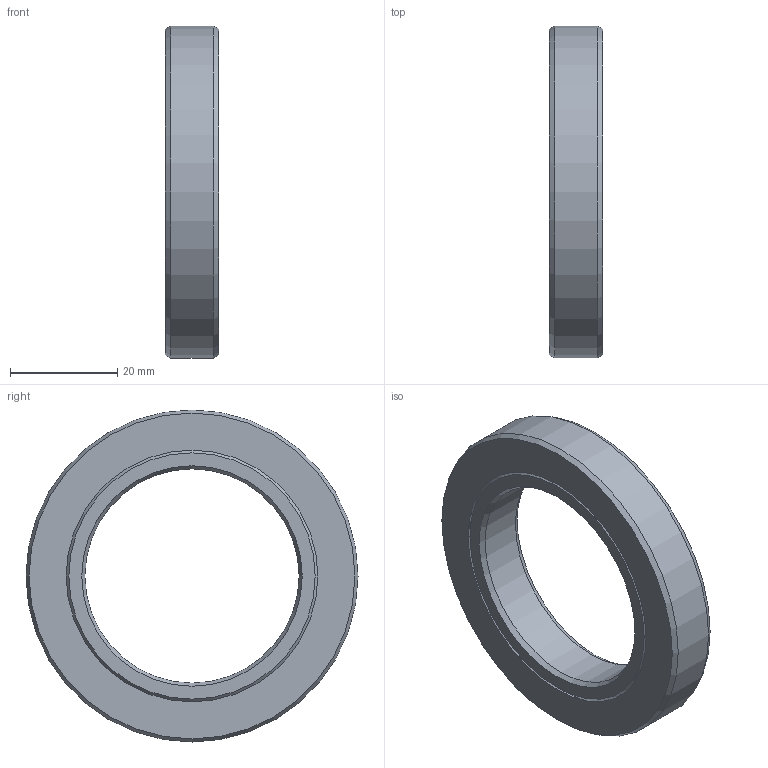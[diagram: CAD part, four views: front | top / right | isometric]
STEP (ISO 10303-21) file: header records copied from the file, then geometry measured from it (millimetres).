
FILE_DESCRIPTION(/* description */ (''),/* implementation_level */ '2;1');
FILE_NAME(/* name */ '301567 S40x62x10.stp',/* time_stamp */ '2016-12-16T13:40:22+01:00',/* author */ (''),/* organization */ (''),/* preprocessor_version */ 'ST-DEVELOPER v15',/* originating_system */ 'SIEMENS PLM Software NX 8.5',/* authorisation */ '');
FILE_SCHEMA (('CONFIG_CONTROL_DESIGN'));
Length unit declared in the file: millimetre
Products named in the file (1): ATE0000143_01
Bounding box: 10 x 62 x 62 mm (x, y, z)
Volume: 16632 mm3; surface area: 10239.3 mm2
Topology: 2 solids, 2 shells, 16 faces, 30 edges, 18 vertices
Faces by surface type: cone 10, plane 4, cylinder 2
Full cylindrical faces by diameter (mm): 40 x1, 62 x1
Entity records: 414 total; most frequent: DIRECTION 66, CARTESIAN_POINT 49, AXIS2_PLACEMENT_3D 33, FACE_BOUND 32, EDGE_LOOP 32, ORIENTED_EDGE 32, ADVANCED_FACE 16, VERTEX_POINT 16
